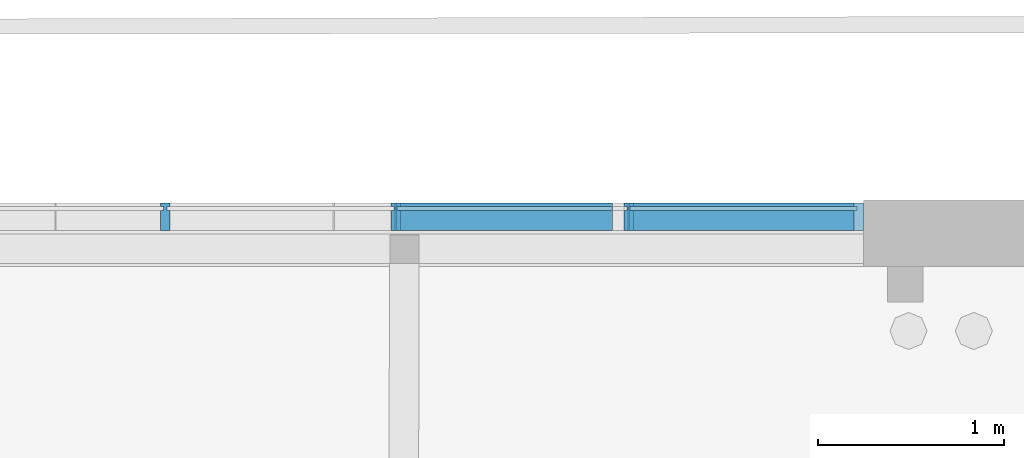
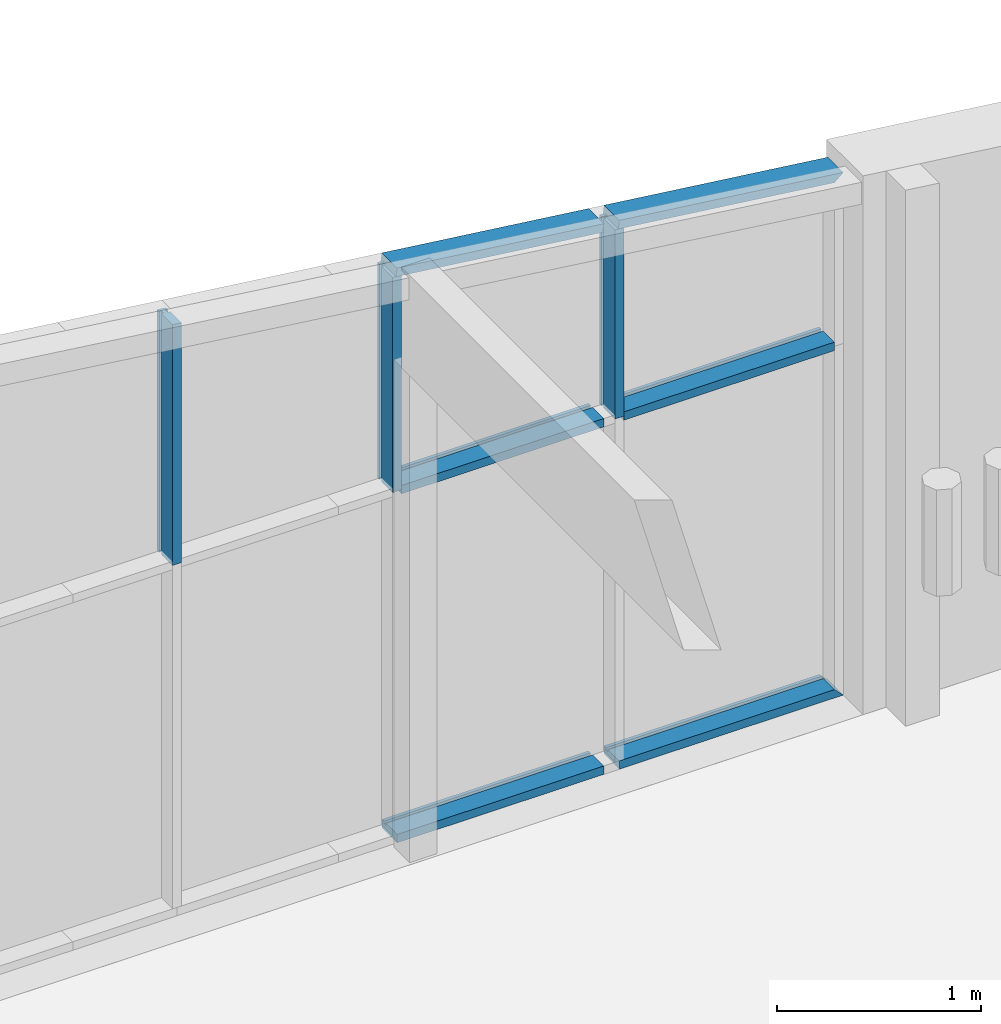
# One storey, part 45 of 301: 9 members, 1 element without a shape of its own.
"""IFC2X3 building model written with IfcOpenShell, lengths in millimetres."""

from ifc_helpers import new_model, entity, si_unit, converted_unit, derived_unit, money_unit, direction, frame, origin_with_axes, place, context, subcontext, project, spatial, faceted_brep, material, type_object, element, aggregate, save


model = new_model("IFC2X3")

# Units and contexts
model_context = context("Model", 3, precision=0.01, world=origin_with_axes(), true_north=direction((0.0, 1.0)))
body_context = subcontext(model_context, "Body", "Model", "MODEL_VIEW")
ifc_project = project(units=[si_unit("LENGTHUNIT", "METRE", prefix="MILLI"), si_unit("AREAUNIT", "SQUARE_METRE"), si_unit("VOLUMEUNIT", "CUBIC_METRE"), converted_unit("PLANEANGLEUNIT", "DEGREE", entity("IfcPlaneAngleMeasure", 0.0174532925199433), si_unit("PLANEANGLEUNIT", "RADIAN"), dimensions=[0, 0, 0, 0, 0, 0, 0]), money_unit("EUR"), converted_unit("TIMEUNIT", "Year", entity("IfcTimeMeasure", 31557600.0), si_unit("TIMEUNIT", "SECOND"), dimensions=[0, 0, 1, 0, 0, 0, 0]), si_unit("MASSUNIT", "GRAM", prefix="KILO"), si_unit("THERMODYNAMICTEMPERATUREUNIT", "DEGREE_CELSIUS"), si_unit("LUMINOUSINTENSITYUNIT", "LUMEN"), si_unit("ENERGYUNIT", "JOULE", prefix="MEGA"), derived_unit("THERMALCONDUCTANCEUNIT", [(si_unit("POWERUNIT", "WATT"), 1), (si_unit("LENGTHUNIT", "METRE"), -1), (si_unit("THERMODYNAMICTEMPERATUREUNIT", "KELVIN"), -1)]), derived_unit("SPECIFICHEATCAPACITYUNIT", [(si_unit("ENERGYUNIT", "JOULE"), 1), (si_unit("MASSUNIT", "GRAM", prefix="KILO"), -1), (si_unit("THERMODYNAMICTEMPERATUREUNIT", "KELVIN"), -1)]), derived_unit("MASSDENSITYUNIT", [(si_unit("MASSUNIT", "GRAM", prefix="KILO"), 1), (si_unit("VOLUMEUNIT", "CUBIC_METRE"), -1)])], contexts=[model_context])

# Site, building, storey
site_placement = place(None, frame((0.0, 0.0, 8650.0), z_axis=(0.0, 0.0, 1.0), x_axis=(1.0, 0.0, 0.0)))
site = spatial("IfcSite", under=ifc_project, at=site_placement, Name="43301:001:0844", CompositionType="ELEMENT")
building_placement = place(site_placement, origin_with_axes())
building = spatial("IfcBuilding", under=site, at=building_placement, Name="Kuressaare Ametikooli tuulikute mehaanikute õppekorpus", CompositionType="ELEMENT")
storey_placement = place(building_placement, origin_with_axes())
storey = spatial("IfcBuildingStorey", under=building, at=storey_placement, Name="1.korrus", CompositionType="ELEMENT", Elevation=0.0)

# Curtain wall, members
curtain_wall_type = type_object("IfcCurtainWallType", Name="Curtain Wall Type", PredefinedType="NOTDEFINED")
curtain_wall_placement = place(storey_placement, frame((123006.726034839, 43517.8284534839, -3.991420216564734e-05), z_axis=(0.0, 0.0, 1.0), x_axis=(1.0, 0.0, 0.0)))
curtain_wall = element("IfcCurtainWall", 1, at=curtain_wall_placement, inside=storey, type_object=curtain_wall_type, Name="KF-XX")
ifc_material = material(Name="Metall - Alumiinium")
member_type_1 = type_object("IfcMemberType", Name="Boundary Frame 50 x 150", PredefinedType="NOTDEFINED")
member_1_placement = place(curtain_wall_placement, frame((4444.56737119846, 0.0, 3277.586815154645), z_axis=(0.9924854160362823, 0.0, -0.1223629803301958), x_axis=(-0.1223629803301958, 0.0, -0.9924854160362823)))
member_1 = element("IfcMember", 2, at=member_1_placement, type_object=member_type_1, material=ifc_material, context=body_context, shape_type="Brep", body=[
    faceted_brep([(35.00000000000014, -9.99999999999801, 1243.703395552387), (35.00000000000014, 9.99999999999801, 1243.703395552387), (50.00000000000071, 9.99999999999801, 1230.439164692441), (50.00000000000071, 30.00000000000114, 1230.439164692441), (0.0, 30.00000000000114, 1274.653267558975), (0.0, 0.0, 1274.653267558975), (0.0, -119.9999999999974, 1274.653267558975), (50.00000000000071, -119.9999999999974, 1230.439164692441), (50.00000000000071, -9.99999999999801, 1230.439164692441), (35.00000000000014, -9.99999999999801, 0.0), (35.00000000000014, 9.99999999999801, 0.0), (50.00000000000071, 9.99999999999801, 0.0), (50.00000000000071, 30.00000000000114, 0.0), (0.0, 30.00000000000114, 0.0), (0.0, 0.0, 0.0), (0.0, -119.9999999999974, 0.0), (50.00000000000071, -119.9999999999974, 0.0), (50.00000000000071, -9.99999999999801, 0.0)], [[[0, 1, 2, 3, 4, 5, 6, 7, 8]], [[1, 0, 9, 10]], [[11, 2, 1, 10]], [[2, 11, 12, 3]], [[13, 4, 3, 12]], [[14, 5, 4, 13]], [[15, 6, 5, 14]], [[16, 7, 6, 15]], [[17, 8, 7, 16]], [[0, 8, 17, 9]], [[9, 17, 16, 15, 14, 13, 12, 11, 10]]]),
])
member_2_placement = place(curtain_wall_placement, frame((4357.128657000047, 0.0, 0.0), z_axis=(-1.0, 0.0, 0.0), x_axis=(0.0, 0.0, 1.0)))
member_2 = element("IfcMember", 3, at=member_2_placement, type_object=member_type_1, material=ifc_material, context=body_context, shape_type="Brep", body=[
    faceted_brep([(35.0, -9.99999999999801, 1168.037896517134), (35.0, 9.99999999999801, 1168.037896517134), (50.0, 9.99999999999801, 1168.037896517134), (50.0, 30.00000000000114, 1168.037896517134), (0.0, 30.00000000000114, 1168.037896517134), (0.0, 0.0, 1168.037896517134), (0.0, -119.9999999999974, 1168.037896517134), (50.0, -119.9999999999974, 1168.037896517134), (50.0, -9.99999999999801, 1168.037896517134), (35.0, -9.99999999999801, 0.0), (35.0, 9.99999999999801, 0.0), (50.0, 9.99999999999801, 0.0), (50.0, 30.00000000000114, 0.0), (0.0, 30.00000000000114, 0.0), (0.0, 0.0, 0.0), (0.0, -119.9999999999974, 0.0), (50.0, -119.9999999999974, 0.0), (50.0, -9.99999999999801, 0.0)], [[[0, 1, 2, 3, 4, 5, 6, 7, 8]], [[1, 0, 9, 10]], [[11, 2, 1, 10]], [[2, 11, 12, 3]], [[13, 4, 3, 12]], [[14, 5, 4, 13]], [[15, 6, 5, 14]], [[16, 7, 6, 15]], [[17, 8, 7, 16]], [[0, 8, 17, 9]], [[9, 17, 16, 15, 14, 13, 12, 11, 10]]]),
])
member_3_placement = place(curtain_wall_placement, frame((5709.642119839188, 0.0, 0.0), z_axis=(-1.0, 0.0, 0.0), x_axis=(0.0, 0.0, 1.0)))
member_3 = element("IfcMember", 4, at=member_3_placement, type_object=member_type_1, material=ifc_material, context=body_context, shape_type="Brep", body=[
    faceted_brep([(35.0, -9.99999999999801, 1265.074753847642), (35.0, 9.99999999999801, 1265.074753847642), (50.0, 9.99999999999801, 1265.074753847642), (50.0, 30.00000000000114, 1265.074753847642), (0.0, 30.00000000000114, 1265.074753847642), (0.0, 0.0, 1265.074753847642), (0.0, -119.9999999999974, 1265.074753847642), (50.0, -119.9999999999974, 1265.074753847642), (50.0, -9.99999999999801, 1265.074753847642), (35.0, -9.99999999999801, 34.99999999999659), (35.0, 9.99999999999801, 34.99999999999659), (50.0, 9.99999999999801, 50.00000000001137), (50.0, 30.00000000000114, 50.00000000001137), (0.0, 30.00000000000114, 0.0), (0.0, 0.0, 0.0), (0.0, -119.9999999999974, 0.0), (50.0, -119.9999999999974, 50.00000000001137), (50.0, -9.99999999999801, 50.00000000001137)], [[[0, 1, 2, 3, 4, 5, 6, 7, 8]], [[1, 0, 9, 10]], [[11, 2, 1, 10]], [[2, 11, 12, 3]], [[4, 3, 12, 13]], [[5, 4, 13, 14]], [[6, 5, 14, 15]], [[7, 6, 15, 16]], [[17, 8, 7, 16]], [[0, 8, 17, 9]], [[9, 17, 16, 15, 14, 13, 12, 11, 10]]]),
])
member_4_placement = place(curtain_wall_placement, frame((3189.090757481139, 0.0, 3432.373772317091), z_axis=(0.9924854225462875, 0.0, -0.1223629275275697), x_axis=(-0.1223629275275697, 0.0, -0.9924854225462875)))
member_4 = element("IfcMember", 5, at=member_4_placement, type_object=member_type_1, material=ifc_material, context=body_context, shape_type="Brep", body=[
    faceted_brep([(35.00000000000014, -9.99999999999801, 1176.881669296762), (35.00000000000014, 9.99999999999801, 1176.881669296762), (50.00000000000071, 9.99999999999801, 1176.881669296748), (50.00000000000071, 30.00000000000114, 1176.881669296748), (0.0, 30.00000000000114, 1176.881669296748), (0.0, 0.0, 1176.881669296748), (0.0, -119.9999999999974, 1176.881669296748), (50.00000000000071, -119.9999999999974, 1176.881669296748), (50.00000000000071, -9.99999999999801, 1176.881669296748), (35.00000000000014, -9.99999999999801, 0.0), (35.00000000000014, 9.99999999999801, 0.0), (50.00000000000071, 9.99999999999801, 0.0), (50.00000000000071, 30.00000000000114, 0.0), (0.0, 30.00000000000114, 0.0), (0.0, 0.0, 0.0), (0.0, -119.9999999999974, 0.0), (50.00000000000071, -119.9999999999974, 0.0), (50.00000000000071, -9.99999999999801, 0.0)], [[[0, 1, 2, 3, 4, 5, 6, 7, 8]], [[1, 0, 9, 10]], [[11, 2, 1, 10]], [[2, 11, 12, 3]], [[13, 4, 3, 12]], [[14, 5, 4, 13]], [[15, 6, 5, 14]], [[16, 7, 6, 15]], [[17, 8, 7, 16]], [[0, 8, 17, 9]], [[9, 17, 16, 15, 14, 13, 12, 11, 10]]]),
])
member_type_2 = type_object("IfcMemberType", Name="Transom Frame 50 x 150", PredefinedType="NOTDEFINED")
member_5_placement = place(curtain_wall_placement, frame((5709.642119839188, 0.0, 2100.000039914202), z_axis=(-1.0, 0.0, 0.0), x_axis=(0.0, 0.0, 1.0)))
member_5 = element("IfcMember", 6, at=member_5_placement, type_object=member_type_2, material=ifc_material, context=body_context, shape_type="Brep", body=[
    faceted_brep([(-9.999999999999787, -9.99999999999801, 1240.074753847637), (-24.99999999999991, -9.99999999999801, 1240.074753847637), (-24.99999999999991, -119.9999999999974, 1240.074753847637), (24.99999999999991, -119.9999999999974, 1240.074753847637), (24.99999999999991, -9.99999999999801, 1240.074753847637), (9.999999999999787, -9.99999999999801, 1240.074753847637), (9.999999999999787, 9.99999999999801, 1240.074753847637), (24.99999999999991, 9.99999999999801, 1240.074753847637), (24.99999999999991, 30.00000000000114, 1240.074753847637), (-24.99999999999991, 30.00000000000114, 1240.074753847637), (-24.99999999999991, 9.99999999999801, 1240.074753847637), (-9.999999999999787, 9.99999999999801, 1240.074753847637), (-9.999999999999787, -9.99999999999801, 50.00000029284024), (-24.99999999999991, -9.99999999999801, 50.00000029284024), (-24.99999999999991, -119.9999999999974, 50.00000351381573), (24.99999999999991, -119.9999999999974, 50.00000351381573), (24.99999999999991, -9.99999999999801, 50.00000029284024), (9.999999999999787, -9.99999999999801, 50.00000029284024), (9.999999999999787, 9.99999999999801, 49.9999997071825), (24.99999999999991, 9.99999999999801, 49.9999997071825), (24.99999999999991, 30.00000000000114, 49.99999912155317), (-24.99999999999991, 30.00000000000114, 49.99999912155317), (-24.99999999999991, 9.99999999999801, 49.9999997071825), (-9.999999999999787, 9.99999999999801, 49.9999997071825)], [[[0, 1, 2, 3, 4, 5, 6, 7, 8, 9, 10, 11]], [[1, 0, 12, 13]], [[1, 13, 14, 2]], [[2, 14, 15, 3]], [[4, 3, 15, 16]], [[4, 16, 17, 5]], [[5, 17, 18, 6]], [[7, 6, 18, 19]], [[19, 20, 8, 7]], [[8, 20, 21, 9]], [[22, 10, 9, 21]], [[11, 10, 22, 23]], [[0, 11, 23, 12]], [[23, 22, 21, 20, 19, 18, 17, 16, 15, 14, 13, 12]]]),
])
member_6_placement = place(curtain_wall_placement, frame((4357.128657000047, 0.0, 2100.000039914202), z_axis=(-1.0, 0.0, 0.0), x_axis=(0.0, 0.0, 1.0)))
member_6 = element("IfcMember", 7, at=member_6_placement, type_object=member_type_2, material=ifc_material, context=body_context, shape_type="Brep", body=[
    faceted_brep([(-9.999999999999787, -9.99999999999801, 1143.037896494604), (-24.99999999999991, -9.99999999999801, 1143.037896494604), (-24.99999999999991, -119.9999999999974, 1143.037896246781), (24.99999999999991, -119.9999999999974, 1143.037896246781), (24.99999999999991, -9.99999999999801, 1143.037896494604), (9.999999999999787, -9.99999999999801, 1143.037896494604), (9.999999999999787, 9.99999999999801, 1143.037896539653), (24.99999999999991, 9.99999999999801, 1143.037896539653), (24.99999999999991, 30.00000000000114, 1143.037896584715), (-24.99999999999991, 30.00000000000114, 1143.037896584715), (-24.99999999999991, 9.99999999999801, 1143.037896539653), (-9.999999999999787, 9.99999999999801, 1143.037896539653), (-9.999999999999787, -9.99999999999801, 0.0), (-24.99999999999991, -9.99999999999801, 0.0), (-24.99999999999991, -119.9999999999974, 0.0), (24.99999999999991, -119.9999999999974, 0.0), (24.99999999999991, -9.99999999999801, 0.0), (9.999999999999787, -9.99999999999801, 0.0), (9.999999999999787, 9.99999999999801, 0.0), (24.99999999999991, 9.99999999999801, 0.0), (24.99999999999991, 30.00000000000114, 0.0), (-24.99999999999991, 30.00000000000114, 0.0), (-24.99999999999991, 9.99999999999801, 0.0), (-9.999999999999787, 9.99999999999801, 0.0)], [[[0, 1, 2, 3, 4, 5, 6, 7, 8, 9, 10, 11]], [[1, 0, 12, 13]], [[1, 13, 14, 2]], [[3, 2, 14, 15]], [[4, 3, 15, 16]], [[4, 16, 17, 5]], [[5, 17, 18, 6]], [[7, 6, 18, 19]], [[19, 20, 8, 7]], [[9, 8, 20, 21]], [[22, 10, 9, 21]], [[11, 10, 22, 23]], [[0, 11, 23, 12]], [[23, 22, 21, 20, 19, 18, 17, 16, 15, 14, 13, 12]]]),
])
member_type_3 = type_object("IfcMemberType", Name="Mullion Frame 50 x 150", PredefinedType="NOTDEFINED")
member_7_placement = place(curtain_wall_placement, frame((1945.71281708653, 0.0, 2100.000039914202), z_axis=(-1.804185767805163e-09, 0.0, 1.0), x_axis=(1.0, 0.0, 1.804185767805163e-09)))
member_7 = element("IfcMember", 8, at=member_7_placement, type_object=member_type_3, material=ifc_material, context=body_context, shape_type="Brep", body=[
    faceted_brep([(-9.999997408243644, -9.99999999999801, 1436.5233920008), (-24.99999740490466, -9.99999999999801, 1438.372733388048), (-24.99999740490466, -119.9999999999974, 1438.372733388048), (25.00000258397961, -119.9999999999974, 1432.20826209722), (25.00000258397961, -9.99999999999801, 1432.20826209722), (10.00000258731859, -9.99999999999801, 1434.057603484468), (10.00000258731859, 9.99999999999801, 1434.057603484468), (25.00000258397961, 9.99999999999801, 1432.20826209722), (25.00000258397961, 30.00000000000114, 1432.20826209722), (-24.99999740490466, 30.00000000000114, 1438.372733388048), (-24.99999740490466, 9.99999999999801, 1438.372733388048), (-9.999997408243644, 9.99999999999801, 1436.5233920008), (-10.00000000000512, -9.99999999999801, -2.706279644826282e-08), (-25.00000000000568, -9.99999999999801, 0.0), (-25.00000000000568, -119.9999999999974, 0.0), (25.00000000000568, -119.9999999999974, -9.020961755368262e-08), (25.00000000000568, -9.99999999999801, -9.020961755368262e-08), (10.00000000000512, -9.99999999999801, -6.31468211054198e-08), (10.00000000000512, 9.99999999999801, -6.31468211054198e-08), (25.00000000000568, 9.99999999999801, -9.020961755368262e-08), (25.00000000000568, 30.00000000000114, -9.020961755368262e-08), (-25.00000000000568, 30.00000000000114, 0.0), (-25.00000000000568, 9.99999999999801, 0.0), (-10.00000000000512, 9.99999999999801, -2.706279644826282e-08)], [[[0, 1, 2, 3, 4, 5, 6, 7, 8, 9, 10, 11]], [[1, 0, 12, 13]], [[1, 13, 14, 2]], [[3, 2, 14, 15]], [[4, 3, 15, 16]], [[4, 16, 17, 5]], [[5, 17, 18, 6]], [[7, 6, 18, 19]], [[19, 20, 8, 7]], [[9, 8, 20, 21]], [[22, 10, 9, 21]], [[11, 10, 22, 23]], [[0, 11, 23, 12]], [[23, 22, 21, 20, 19, 18, 17, 16, 15, 14, 13, 12]]]),
])
member_8_placement = place(curtain_wall_placement, frame((4444.567365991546, 0.0, 2100.000039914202), z_axis=(4.42168179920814e-09, 0.0, 1.0), x_axis=(1.0, 0.0, -4.42168179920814e-09)))
member_8 = element("IfcMember", 9, at=member_8_placement, type_object=member_type_3, material=ifc_material, context=body_context, shape_type="Brep", body=[
    faceted_brep([(-10.00000498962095, -9.99999999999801, 1128.441095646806), (-25.00000499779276, -9.99999999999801, 1130.290437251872), (-25.00000499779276, -119.9999999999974, 1130.290437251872), (24.99999502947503, -119.9999999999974, 1124.125965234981), (24.99999502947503, -9.99999999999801, 1124.125965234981), (9.99999502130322, -9.99999999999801, 1125.975306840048), (9.99999502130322, 9.99999999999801, 1125.975306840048), (24.99999502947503, 9.99999999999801, 1124.125965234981), (24.99999502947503, 30.00000000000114, 1124.125965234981), (-25.00000499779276, 30.00000000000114, 1130.290437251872), (-25.00000499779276, 9.99999999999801, 1130.290437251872), (-10.00000498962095, 9.99999999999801, 1128.441095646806), (-10.00000000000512, -9.99999999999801, -1.547588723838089e-07), (-25.00000000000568, -9.99999999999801, -2.210844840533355e-07), (-25.00000000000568, -119.9999999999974, -2.210844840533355e-07), (25.00000000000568, -119.9999999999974, 0.0), (25.00000000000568, -9.99999999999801, 0.0), (10.00000000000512, -9.99999999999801, -6.632561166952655e-08), (10.00000000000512, 9.99999999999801, -6.632561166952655e-08), (25.00000000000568, 9.99999999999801, 0.0), (25.00000000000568, 30.00000000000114, 0.0), (-25.00000000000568, 30.00000000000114, -2.210844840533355e-07), (-25.00000000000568, 9.99999999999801, -2.210844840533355e-07), (-10.00000000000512, 9.99999999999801, -1.547588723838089e-07)], [[[0, 1, 2, 3, 4, 5, 6, 7, 8, 9, 10, 11]], [[1, 0, 12, 13]], [[1, 13, 14, 2]], [[3, 2, 14, 15]], [[4, 3, 15, 16]], [[4, 16, 17, 5]], [[5, 17, 18, 6]], [[7, 6, 18, 19]], [[19, 20, 8, 7]], [[9, 8, 20, 21]], [[22, 10, 9, 21]], [[11, 10, 22, 23]], [[0, 11, 23, 12]], [[23, 22, 21, 20, 19, 18, 17, 16, 15, 14, 13, 12]]]),
])
member_9_placement = place(curtain_wall_placement, frame((3189.090760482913, 0.0, 2100.000039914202), z_axis=(-2.252951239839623e-09, 0.0, 1.0), x_axis=(1.0, 0.0, 2.252951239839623e-09)))
member_9 = element("IfcMember", 10, at=member_9_placement, type_object=member_type_3, material=ifc_material, context=body_context, shape_type="Brep", body=[
    faceted_brep([(-9.999997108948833, -9.99999999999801, 1283.22805269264), (-24.99999710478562, -9.99999999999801, 1285.077393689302), (-24.99999710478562, -119.9999999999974, 1285.077393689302), (25.00000288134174, -119.9999999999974, 1278.912923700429), (25.00000288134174, -9.99999999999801, 1278.912923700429), (10.00000288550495, -9.99999999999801, 1280.762264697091), (10.00000288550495, 9.99999999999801, 1280.762264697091), (25.00000288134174, 9.99999999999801, 1278.912923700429), (25.00000288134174, 30.00000000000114, 1278.912923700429), (-24.99999710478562, 30.00000000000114, 1285.077393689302), (-24.99999710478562, 9.99999999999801, 1285.077393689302), (-9.999997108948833, 9.99999999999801, 1283.22805269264), (-10.00000000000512, -9.99999999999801, -3.379430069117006e-08), (-25.00000000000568, -9.99999999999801, 0.0), (-25.00000000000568, -119.9999999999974, 0.0), (25.00000000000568, -119.9999999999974, -1.126476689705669e-07), (25.00000000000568, -9.99999999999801, -1.126476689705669e-07), (10.00000000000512, -9.99999999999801, -7.885336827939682e-08), (10.00000000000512, 9.99999999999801, -7.885336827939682e-08), (25.00000000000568, 9.99999999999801, -1.126476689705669e-07), (25.00000000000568, 30.00000000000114, -1.126476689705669e-07), (-25.00000000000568, 30.00000000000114, 0.0), (-25.00000000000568, 9.99999999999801, 0.0), (-10.00000000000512, 9.99999999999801, -3.379430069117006e-08)], [[[0, 1, 2, 3, 4, 5, 6, 7, 8, 9, 10, 11]], [[1, 0, 12, 13]], [[1, 13, 14, 2]], [[3, 2, 14, 15]], [[4, 3, 15, 16]], [[4, 16, 17, 5]], [[5, 17, 18, 6]], [[7, 6, 18, 19]], [[19, 20, 8, 7]], [[9, 8, 20, 21]], [[22, 10, 9, 21]], [[11, 10, 22, 23]], [[0, 11, 23, 12]], [[23, 22, 21, 20, 19, 18, 17, 16, 15, 14, 13, 12]]]),
])
aggregate(curtain_wall, [member_1, member_2, member_3, member_4, member_5, member_7, member_6, member_8, member_9])

save(model, "model.ifc")
